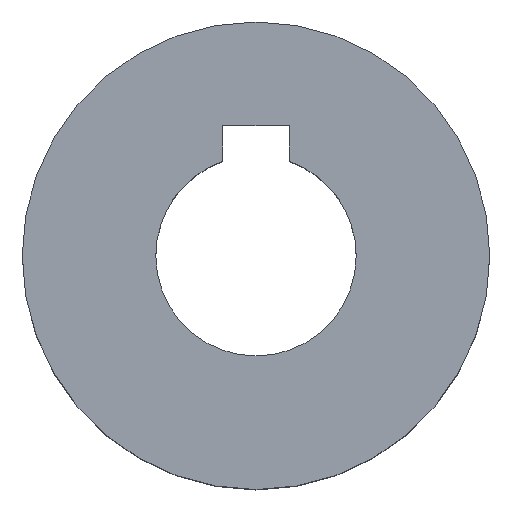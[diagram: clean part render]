
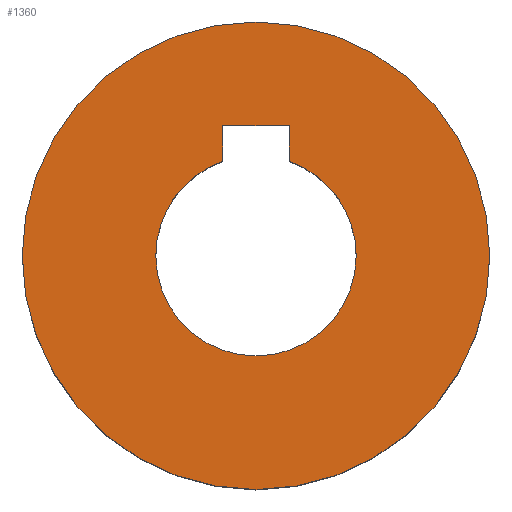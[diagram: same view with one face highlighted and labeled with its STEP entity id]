
A CAD part, top view. The second image highlights one B-rep face of the part: STEP entity #1360.
In plain terms, the highlighted planar face has unit normal (0, 0, 1).
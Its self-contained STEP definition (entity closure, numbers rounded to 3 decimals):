
#126 = VERTEX_POINT ( 'NONE', #1860 ) ;
#160 = EDGE_CURVE ( 'NONE', #222, #126, #1904, .T. ) ;
#161 = EDGE_CURVE ( 'NONE', #216, #222, #1920, .T. ) ;
#216 = VERTEX_POINT ( 'NONE', #2040 ) ;
#222 = VERTEX_POINT ( 'NONE', #2017 ) ;
#224 = EDGE_CURVE ( 'NONE', #231, #242, #2013, .T. ) ;
#231 = VERTEX_POINT ( 'NONE', #2073 ) ;
#242 = VERTEX_POINT ( 'NONE', #2060 ) ;
#1311 = EDGE_LOOP ( 'NONE', ( #1355, #1363, #1365, #1341, #1359, #1346 ) ) ;
#1341 = ORIENTED_EDGE ( 'NONE', *, *, #1364, .T. ) ;
#1342 = EDGE_CURVE ( 'NONE', #1357, #1358, #3165, .T. ) ;
#1343 = EDGE_CURVE ( 'NONE', #242, #231, #3445, .T. ) ;
#1345 = EDGE_CURVE ( 'NONE', #1358, #1354, #4218, .T. ) ;
#1346 = ORIENTED_EDGE ( 'NONE', *, *, #1345, .T. ) ;
#1347 = EDGE_LOOP ( 'NONE', ( #1348, #1350 ) ) ;
#1348 = ORIENTED_EDGE ( 'NONE', *, *, #224, .T. ) ;
#1350 = ORIENTED_EDGE ( 'NONE', *, *, #1343, .T. ) ;
#1354 = VERTEX_POINT ( 'NONE', #4209 ) ;
#1355 = ORIENTED_EDGE ( 'NONE', *, *, #1361, .T. ) ;
#1357 = VERTEX_POINT ( 'NONE', #4214 ) ;
#1358 = VERTEX_POINT ( 'NONE', #4211 ) ;
#1359 = ORIENTED_EDGE ( 'NONE', *, *, #1342, .T. ) ;
#1360 = ADVANCED_FACE ( 'NONE', ( #4219, #4202 ), #4210, .T. ) ;
#1361 = EDGE_CURVE ( 'NONE', #1354, #216, #4198, .T. ) ;
#1363 = ORIENTED_EDGE ( 'NONE', *, *, #161, .T. ) ;
#1364 = EDGE_CURVE ( 'NONE', #126, #1357, #4199, .T. ) ;
#1365 = ORIENTED_EDGE ( 'NONE', *, *, #160, .T. ) ;
#1860 = CARTESIAN_POINT ( 'NONE',  ( -2., 5.657, 7.5 ) ) ;
#1898 = CARTESIAN_POINT ( 'NONE',  ( 0., 0., 7.5 ) ) ;
#1900 = CARTESIAN_POINT ( 'NONE',  ( 0., 0., 7.5 ) ) ;
#1903 = AXIS2_PLACEMENT_3D ( 'NONE', #1898, #1951, #1946 ) ;
#1904 = CIRCLE ( 'NONE', #1954, 6. ) ;
#1920 = CIRCLE ( 'NONE', #1903, 6. ) ;
#1946 = DIRECTION ( 'NONE',  ( 1., 0., 0. ) ) ;
#1951 = DIRECTION ( 'NONE',  ( 0., 0., -1. ) ) ;
#1952 = DIRECTION ( 'NONE',  ( 1., 0., 0. ) ) ;
#1953 = DIRECTION ( 'NONE',  ( 0., 0., -1. ) ) ;
#1954 = AXIS2_PLACEMENT_3D ( 'NONE', #1900, #1953, #1952 ) ;
#2013 = CIRCLE ( 'NONE', #2019, 14. ) ;
#2017 = CARTESIAN_POINT ( 'NONE',  ( -6., 0., 7.5 ) ) ;
#2018 = CARTESIAN_POINT ( 'NONE',  ( 0., 0., 7.5 ) ) ;
#2019 = AXIS2_PLACEMENT_3D ( 'NONE', #2018, #2080, #2079 ) ;
#2040 = CARTESIAN_POINT ( 'NONE',  ( 6., 0., 7.5 ) ) ;
#2060 = CARTESIAN_POINT ( 'NONE',  ( -14., 0., 7.5 ) ) ;
#2073 = CARTESIAN_POINT ( 'NONE',  ( 14., 0., 7.5 ) ) ;
#2079 = DIRECTION ( 'NONE',  ( 1., 0., 0. ) ) ;
#2080 = DIRECTION ( 'NONE',  ( 0., 0., 1. ) ) ;
#3165 = LINE ( 'NONE', #3432, #3427 ) ;
#3398 = CARTESIAN_POINT ( 'NONE',  ( 0., 0., 7.5 ) ) ;
#3427 = VECTOR ( 'NONE', #3431, 1000. ) ;
#3431 = DIRECTION ( 'NONE',  ( 1., 0., 0. ) ) ;
#3432 = CARTESIAN_POINT ( 'NONE',  ( 2., 7.8, 7.5 ) ) ;
#3445 = CIRCLE ( 'NONE', #3453, 14. ) ;
#3453 = AXIS2_PLACEMENT_3D ( 'NONE', #3398, #3704, #3677 ) ;
#3677 = DIRECTION ( 'NONE',  ( 1., 0., 0. ) ) ;
#3704 = DIRECTION ( 'NONE',  ( 0., 0., 1. ) ) ;
#4189 = DIRECTION ( 'NONE',  ( 1., 0., 0. ) ) ;
#4190 = DIRECTION ( 'NONE',  ( 0., 0., -1. ) ) ;
#4191 = CARTESIAN_POINT ( 'NONE',  ( 0., 0., 7.5 ) ) ;
#4192 = AXIS2_PLACEMENT_3D ( 'NONE', #4191, #4190, #4189 ) ;
#4196 = DIRECTION ( 'NONE',  ( 1., 0., 0. ) ) ;
#4197 = DIRECTION ( 'NONE',  ( 0., 0., 1. ) ) ;
#4198 = CIRCLE ( 'NONE', #4192, 6. ) ;
#4199 = LINE ( 'NONE', #4203, #4205 ) ;
#4202 = FACE_OUTER_BOUND ( 'NONE', #1347, .T. ) ;
#4203 = CARTESIAN_POINT ( 'NONE',  ( -2., 7.8, 7.5 ) ) ;
#4204 = AXIS2_PLACEMENT_3D ( 'NONE', #4208, #4197, #4196 ) ;
#4205 = VECTOR ( 'NONE', #4248, 1000. ) ;
#4208 = CARTESIAN_POINT ( 'NONE',  ( 0., 0., 7.5 ) ) ;
#4209 = CARTESIAN_POINT ( 'NONE',  ( 2., 5.657, 7.5 ) ) ;
#4210 = PLANE ( 'NONE',  #4204 ) ;
#4211 = CARTESIAN_POINT ( 'NONE',  ( 2., 7.8, 7.5 ) ) ;
#4214 = CARTESIAN_POINT ( 'NONE',  ( -2., 7.8, 7.5 ) ) ;
#4215 = DIRECTION ( 'NONE',  ( 0., -1., 0. ) ) ;
#4216 = VECTOR ( 'NONE', #4215, 1000. ) ;
#4217 = CARTESIAN_POINT ( 'NONE',  ( 2., 5.657, 7.5 ) ) ;
#4218 = LINE ( 'NONE', #4217, #4216 ) ;
#4219 = FACE_BOUND ( 'NONE', #1311, .T. ) ;
#4248 = DIRECTION ( 'NONE',  ( 0., 1., 0. ) ) ;
